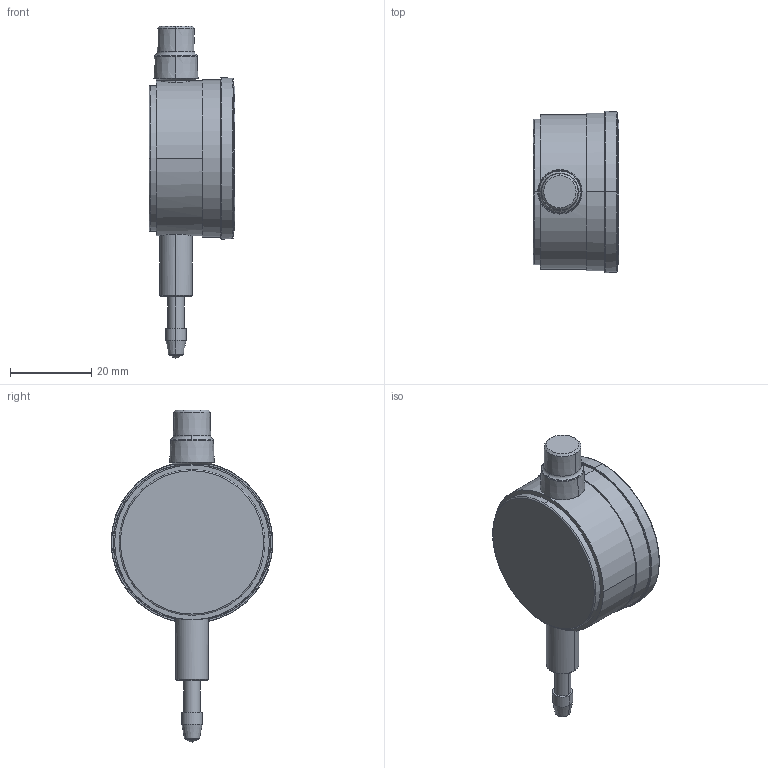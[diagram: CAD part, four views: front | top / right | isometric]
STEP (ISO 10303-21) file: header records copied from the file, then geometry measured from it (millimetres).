
FILE_DESCRIPTION(('Creo Elements/Direct Modeling STEP Export'),'2;1');
FILE_NAME('1109SB-10.stp','2020-03-23T 9:28:21',(''),(''),'Creo Elements/Direct Modeling STEP processor for AP214 (Solid Model)','Creo Elements/Direct Modeling 18.1I 13-Aug-2016 (C) Parametric Technology GmbH','');
FILE_SCHEMA(('AUTOMOTIVE_DESIGN { 1 0 10303 214 1 1 1 1 }'));
Length unit declared in the file: millimetre
Products named in the file (2): 1109SB-10
Assembly tree (1 placements, depth 2):
  1109SB-10
    1109SB-10
Bounding box: 21.1 x 39.71 x 81.5 mm (x, y, z)
Volume: 26095.6 mm3; surface area: 5966.3 mm2
Topology: 1 solids, 1 shells, 64 faces, 152 edges, 99 vertices
Faces by surface type: cone 26, cylinder 16, plane 12, torus 6, revolution 2, sphere 2
Entity records: 2432 total; most frequent: CARTESIAN_POINT 1046, ORIENTED_EDGE 300, DIRECTION 262, EDGE_CURVE 150, AXIS2_PLACEMENT_3D 109, VERTEX_POINT 99, EDGE_LOOP 75, FACE_OUTER_BOUND 64
